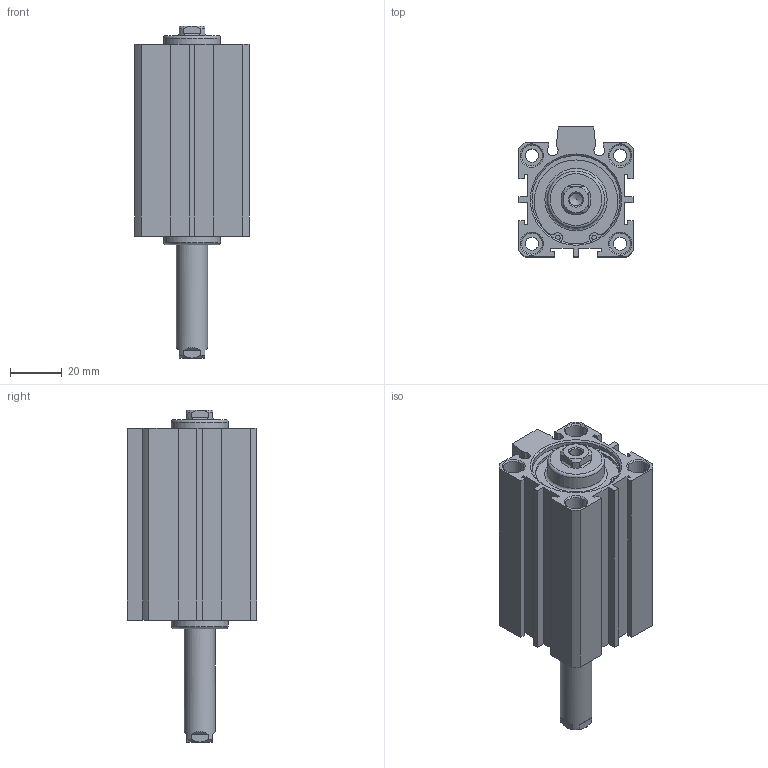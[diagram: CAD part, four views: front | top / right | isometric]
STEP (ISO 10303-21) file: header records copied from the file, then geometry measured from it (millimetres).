
FILE_DESCRIPTION((''),'2;1');
FILE_NAME('I:\3D電子目錄\氣缸\JDD\JDD-S\JDD32-S\JDD32x40-S.stp','2007-02-08T14:42:51',('662F206'),(''),'Autodesk Inventor 10','Autodesk Inventor 10','');
FILE_SCHEMA(('AUTOMOTIVE_DESIGN { 1 0 10303 214 1 1 1 1 }'));
Length unit declared in the file: millimetre
Products named in the file (3): JDD32-S; R 形環 35
Assembly tree (3 placements, depth 2):
  JDD32-S
    JDD32-S
    R 形環 35  x2
Bounding box: 44 x 50 x 128 mm (x, y, z)
Volume: 129979.6 mm3; surface area: 34151 mm2
Topology: 3 solids, 3 shells, 177 faces, 425 edges, 276 vertices
Faces by surface type: plane 94, cylinder 49, cone 22, bspline 10, torus 2
Full cylindrical faces by diameter (mm): 1.9 x4, 2.2 x2, 5.1 x4, 8 x8, 12 x1, 22 x2, 34 x4, 36 x2
Entity records: 4715 total; most frequent: CARTESIAN_POINT 983, DIRECTION 774, ORIENTED_EDGE 674, EDGE_CURVE 337, AXIS2_PLACEMENT_3D 292, EDGE_LOOP 248, VERTEX_POINT 247, VECTOR 190
